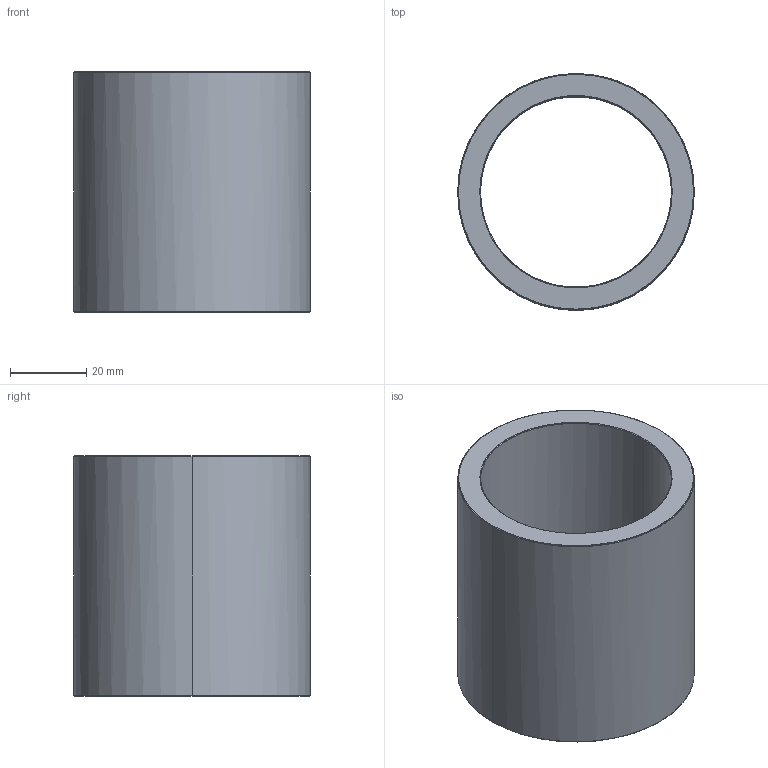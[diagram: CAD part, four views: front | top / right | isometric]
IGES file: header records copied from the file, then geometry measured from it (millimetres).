
Start section: Write IGES format                                    datakit 2008 (c)
Global section: file name: Unknown; native system: DATAKIT Converter; preprocessor: Unknown; author: Unknown; organization: Unknown; date: 950613.180003; units: millimetre
Bounding box: 62 x 61.98 x 63 mm (x, y, z)
Surface area: 24195.8 mm2 (no closed solid volume)
Topology: 0 solids, 0 shells, 14 faces, 56 edges, 56 vertices
Faces by surface type: revolution 12, bspline 2
